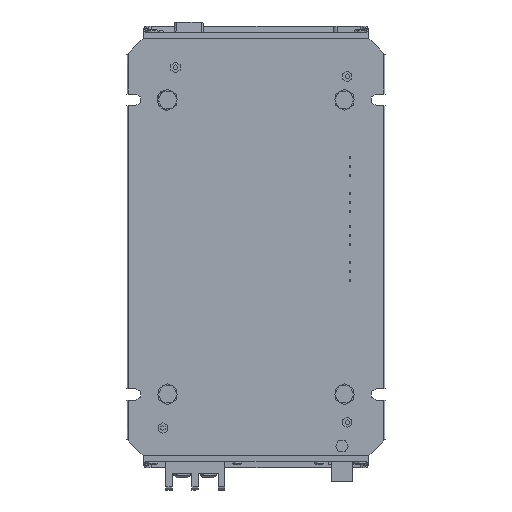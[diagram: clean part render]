
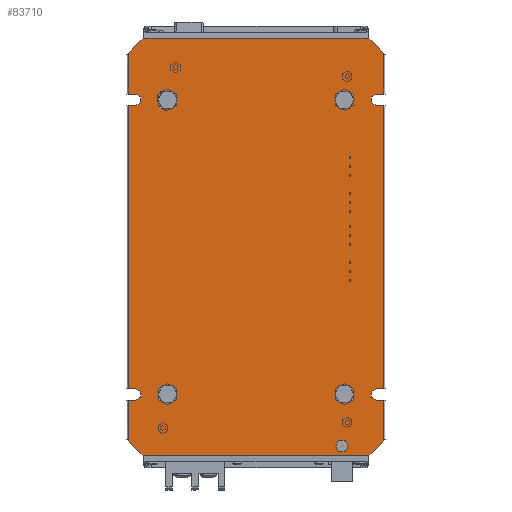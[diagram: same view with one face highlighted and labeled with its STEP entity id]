
A CAD part, front view. The second image highlights one B-rep face of the part: STEP entity #83710.
In plain terms, the highlighted planar face has unit normal (0, -1, 0).
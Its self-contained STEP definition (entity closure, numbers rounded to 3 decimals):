
#43850=CARTESIAN_POINT('',(1991.876,30.104,0.));
#43860=DIRECTION('',(0.,0.,-1.));
#43870=VECTOR('',#43860,1.);
#43880=LINE('',#43850,#43870);
#43890=CARTESIAN_POINT('',(1991.876,30.104,292.237));
#43900=VERTEX_POINT('',#43890);
#43910=CARTESIAN_POINT('',(1991.876,30.104,267.237));
#43920=VERTEX_POINT('',#43910);
#43930=EDGE_CURVE('',#43900,#43920,#43880,.T.);
#46560=CARTESIAN_POINT('',(2143.376,30.104,267.237));
#46570=VERTEX_POINT('',#46560);
#46600=CARTESIAN_POINT('',(0.,30.104,267.237));
#46610=DIRECTION('',(-1.,0.,0.));
#46620=VECTOR('',#46610,1.);
#46630=LINE('',#46600,#46620);
#46640=CARTESIAN_POINT('',(2147.876,30.104,267.237));
#46650=VERTEX_POINT('',#46640);
#46660=EDGE_CURVE('',#46650,#46570,#46630,.T.);
#51640=CARTESIAN_POINT('',(2123.876,30.104,270.237));
#51650=VERTEX_POINT('',#51640);
#51810=CARTESIAN_POINT('',(2123.876,30.104,257.237));
#51820=VERTEX_POINT('',#51810);
#51850=CARTESIAN_POINT('',(2123.876,30.104,263.737));
#51860=DIRECTION('',(0.,-1.,0.));
#51870=DIRECTION('',(0.,0.,-1.));
#51880=AXIS2_PLACEMENT_3D('',#51850,#51860,#51870);
#51890=CIRCLE('',#51880,6.5);
#51900=EDGE_CURVE('',#51650,#51820,#51890,.T.);
#56190=CARTESIAN_POINT('',(2000.876,30.104,46.237));
#56200=VERTEX_POINT('',#56190);
#56230=CARTESIAN_POINT('',(0.,30.104,46.237));
#56240=DIRECTION('',(1.,0.,0.));
#56250=VECTOR('',#56240,1.);
#56260=LINE('',#56230,#56250);
#56270=CARTESIAN_POINT('',(2138.876,30.104,46.237));
#56280=VERTEX_POINT('',#56270);
#56290=EDGE_CURVE('',#56200,#56280,#56260,.T.);
#58890=CARTESIAN_POINT('',(2000.876,30.104,301.237));
#58900=VERTEX_POINT('',#58890);
#58950=CARTESIAN_POINT('',(1699.639,30.104,0.));
#58960=DIRECTION('',(0.707,0.,0.707));
#58970=VECTOR('',#58960,1.);
#58980=LINE('',#58950,#58970);
#58990=EDGE_CURVE('',#43900,#58900,#58980,.T.);
#61160=CARTESIAN_POINT('',(2147.876,30.104,260.237));
#61170=VERTEX_POINT('',#61160);
#61200=CARTESIAN_POINT('',(0.,30.104,260.237));
#61210=DIRECTION('',(1.,0.,0.));
#61220=VECTOR('',#61210,1.);
#61230=LINE('',#61200,#61220);
#61240=CARTESIAN_POINT('',(2143.376,30.104,260.237));
#61250=VERTEX_POINT('',#61240);
#61260=EDGE_CURVE('',#61250,#61170,#61230,.T.);
#62160=CARTESIAN_POINT('',(0.,30.104,267.237));
#62170=DIRECTION('',(-1.,0.,0.));
#62180=VECTOR('',#62170,1.);
#62190=LINE('',#62160,#62180);
#62200=CARTESIAN_POINT('',(1996.376,30.104,267.237));
#62210=VERTEX_POINT('',#62200);
#62220=EDGE_CURVE('',#62210,#43920,#62190,.T.);
#66510=CARTESIAN_POINT('',(1991.876,30.104,55.237));
#66520=VERTEX_POINT('',#66510);
#66550=CARTESIAN_POINT('',(2123.776,30.104,-76.663));
#66560=DIRECTION('',(0.707,0.,-0.707));
#66570=VECTOR('',#66560,1.);
#66580=LINE('',#66550,#66570);
#66590=EDGE_CURVE('',#66520,#56200,#66580,.T.);
#66910=CARTESIAN_POINT('',(2123.876,30.104,77.237));
#66920=VERTEX_POINT('',#66910);
#67000=CARTESIAN_POINT('',(2123.876,30.104,90.237));
#67010=VERTEX_POINT('',#67000);
#67040=CARTESIAN_POINT('',(2123.876,30.104,83.737));
#67050=DIRECTION('',(0.,-1.,0.));
#67060=DIRECTION('',(0.,0.,-1.));
#67070=AXIS2_PLACEMENT_3D('',#67040,#67050,#67060);
#67080=CIRCLE('',#67070,6.5);
#67090=CARTESIAN_POINT('',(2129.385,30.104,87.187))
;
#67100=VERTEX_POINT('',#67090);
#67110=EDGE_CURVE('',#67100,#67010,#67080,.T.);
#67130=EDGE_CURVE('',#66920,#67100,#67080,.T.);
#67230=CARTESIAN_POINT('',(2147.876,30.104,0.));
#67240=DIRECTION('',(0.,0.,1.));
#67250=VECTOR('',#67240,1.);
#67260=LINE('',#67230,#67250);
#67270=CARTESIAN_POINT('',(2147.876,30.104,87.237));
#67280=VERTEX_POINT('',#67270);
#67290=EDGE_CURVE('',#67280,#61170,#67260,.T.);
#67600=CARTESIAN_POINT('',(2147.876,30.104,292.237));
#67610=VERTEX_POINT('',#67600);
#67660=CARTESIAN_POINT('',(2440.113,30.104,0.));
#67670=DIRECTION('',(0.707,0.,-0.707));
#67680=VECTOR('',#67670,1.);
#67690=LINE('',#67660,#67680);
#67700=CARTESIAN_POINT('',(2138.876,30.104,301.237));
#67710=VERTEX_POINT('',#67700);
#67720=EDGE_CURVE('',#67710,#67610,#67690,.T.);
#67960=CARTESIAN_POINT('',(2092.639,30.104,0.));
#67970=DIRECTION('',(0.707,0.,0.707));
#67980=VECTOR('',#67970,1.);
#67990=LINE('',#67960,#67980);
#68000=CARTESIAN_POINT('',(2147.876,30.104,55.237));
#68010=VERTEX_POINT('',#68000);
#68020=EDGE_CURVE('',#56280,#68010,#67990,.T.);
#69540=CARTESIAN_POINT('',(2147.876,30.104,80.237));
#69550=VERTEX_POINT('',#69540);
#69560=EDGE_CURVE('',#68010,#69550,#67260,.T.);
#69760=CARTESIAN_POINT('',(1996.376,30.104,263.737));
#69770=DIRECTION('',(0.,1.,0.));
#69780=DIRECTION('',(0.,0.,-1.));
#69790=AXIS2_PLACEMENT_3D('',#69760,#69770,#69780);
#69800=CIRCLE('',#69790,3.5);
#69810=CARTESIAN_POINT('',(1996.376,30.104,260.237));
#69820=VERTEX_POINT('',#69810);
#69830=EDGE_CURVE('',#62210,#69820,#69800,.T.);
#72730=CARTESIAN_POINT('',(0.,30.104,301.237));
#72740=DIRECTION('',(-1.,0.,0.));
#72750=VECTOR('',#72740,1.);
#72760=LINE('',#72730,#72750);
#72770=EDGE_CURVE('',#67710,#58900,#72760,.T.);
#75130=CARTESIAN_POINT('',(2015.876,30.104,270.237));
#75140=VERTEX_POINT('',#75130);
#75220=CARTESIAN_POINT('',(2015.876,30.104,257.237));
#75230=VERTEX_POINT('',#75220);
#75260=CARTESIAN_POINT('',(2015.876,30.104,263.737));
#75270=DIRECTION('',(0.,-1.,0.));
#75280=DIRECTION('',(0.,0.,-1.));
#75290=AXIS2_PLACEMENT_3D('',#75260,#75270,#75280);
#75300=CIRCLE('',#75290,6.5);
#75310=EDGE_CURVE('',#75140,#75230,#75300,.T.);
#75420=CARTESIAN_POINT('',(1991.876,30.104,260.237));
#75430=VERTEX_POINT('',#75420);
#75460=CARTESIAN_POINT('',(1991.876,30.104,87.237));
#75470=VERTEX_POINT('',#75460);
#75480=EDGE_CURVE('',#75430,#75470,#43880,.T.);
#77840=CARTESIAN_POINT('',(1996.376,30.104,87.237));
#77850=VERTEX_POINT('',#77840);
#77880=CARTESIAN_POINT('',(1996.376,30.104,83.737));
#77890=DIRECTION('',(0.,1.,0.));
#77900=DIRECTION('',(0.,0.,-1.));
#77910=AXIS2_PLACEMENT_3D('',#77880,#77890,#77900);
#77920=CIRCLE('',#77910,3.5);
#77930=CARTESIAN_POINT('',(1996.376,30.104,80.237));
#77940=VERTEX_POINT('',#77930);
#77950=EDGE_CURVE('',#77850,#77940,#77920,.T.);
#78460=EDGE_CURVE('',#46650,#67610,#67260,.T.);
#80830=CARTESIAN_POINT('',(1991.876,30.104,80.237));
#80840=VERTEX_POINT('',#80830);
#80890=CARTESIAN_POINT('',(0.,30.104,80.237));
#80900=DIRECTION('',(1.,0.,0.));
#80910=VECTOR('',#80900,1.);
#80920=LINE('',#80890,#80910);
#80930=EDGE_CURVE('',#80840,#77940,#80920,.T.);
#82720=CARTESIAN_POINT('',(2120.876,30.104,384.774));
#82730=DIRECTION('',(0.,1.,-0.));
#82740=DIRECTION('',(-1.,0.,0.));
#82750=AXIS2_PLACEMENT_3D('',#82720,#82730,#82740);
#82760=PLANE('',#82750);
#82770=CARTESIAN_POINT('',(2015.876,30.104,83.737));
#82780=DIRECTION('',(0.,-1.,0.));
#82790=DIRECTION('',(0.,0.,-1.));
#82800=AXIS2_PLACEMENT_3D('',#82770,#82780,#82790);
#82810=CIRCLE('',#82800,6.5);
#82820=CARTESIAN_POINT('',(2015.876,30.104,77.237));
#82830=VERTEX_POINT('',#82820);
#82840=CARTESIAN_POINT('',(2015.876,30.104,90.237));
#82850=VERTEX_POINT('',#82840);
#82860=EDGE_CURVE('',#82830,#82850,#82810,.T.);
#82870=ORIENTED_EDGE('',*,*,#82860,.F.);
#82880=EDGE_CURVE('',#82850,#82830,#82810,.T.);
#82890=ORIENTED_EDGE('',*,*,#82880,.F.);
#82900=EDGE_LOOP('',(#82890,#82870));
#82910=FACE_BOUND('',#82900,.T.);
#82920=EDGE_CURVE('',#75230,#75140,#75300,.T.);
#82930=ORIENTED_EDGE('',*,*,#82920,.F.);
#82940=ORIENTED_EDGE('',*,*,#75310,.F.);
#82950=EDGE_LOOP('',(#82940,#82930));
#82960=FACE_BOUND('',#82950,.T.);
#82970=ORIENTED_EDGE('',*,*,#67110,.F.);
#82980=EDGE_CURVE('',#67010,#66920,#67080,.T.);
#82990=ORIENTED_EDGE('',*,*,#82980,.F.);
#83000=ORIENTED_EDGE('',*,*,#67130,.F.);
#83010=EDGE_LOOP('',(#83000,#82990,#82970));
#83020=FACE_BOUND('',#83010,.T.);
#83030=EDGE_CURVE('',#51820,#51650,#51890,.T.);
#83040=ORIENTED_EDGE('',*,*,#83030,.F.);
#83050=ORIENTED_EDGE('',*,*,#51900,.F.);
#83060=EDGE_LOOP('',(#83050,#83040));
#83070=FACE_BOUND('',#83060,.T.);
#83080=ORIENTED_EDGE('',*,*,#58990,.F.);
#83090=ORIENTED_EDGE('',*,*,#72770,.T.);
#83100=ORIENTED_EDGE('',*,*,#67720,.F.);
#83110=ORIENTED_EDGE('',*,*,#78460,.T.);
#83120=ORIENTED_EDGE('',*,*,#46660,.F.);
#83130=CARTESIAN_POINT('',(2143.376,30.104,263.737));
#83140=DIRECTION('',(0.,1.,0.));
#83150=DIRECTION('',(0.,0.,-1.));
#83160=AXIS2_PLACEMENT_3D('',#83130,#83140,#83150);
#83170=CIRCLE('',#83160,3.5);
#83180=EDGE_CURVE('',#61250,#46570,#83170,.T.);
#83190=ORIENTED_EDGE('',*,*,#83180,.T.);
#83200=ORIENTED_EDGE('',*,*,#61260,.F.);
#83210=ORIENTED_EDGE('',*,*,#67290,.T.);
#83220=CARTESIAN_POINT('',(0.,30.104,87.237));
#83230=DIRECTION('',(-1.,0.,0.));
#83240=VECTOR('',#83230,1.);
#83250=LINE('',#83220,#83240);
#83260=CARTESIAN_POINT('',(2143.376,30.104,87.237));
#83270=VERTEX_POINT('',#83260);
#83280=EDGE_CURVE('',#67280,#83270,#83250,.T.);
#83290=ORIENTED_EDGE('',*,*,#83280,.F.);
#83300=CARTESIAN_POINT('',(2143.376,30.104,83.737));
#83310=DIRECTION('',(0.,1.,0.));
#83320=DIRECTION('',(0.,0.,-1.));
#83330=AXIS2_PLACEMENT_3D('',#83300,#83310,#83320);
#83340=CIRCLE('',#83330,3.5);
#83350=CARTESIAN_POINT('',(2143.376,30.104,80.237));
#83360=VERTEX_POINT('',#83350);
#83370=EDGE_CURVE('',#83360,#83270,#83340,.T.);
#83380=ORIENTED_EDGE('',*,*,#83370,.T.);
#83390=CARTESIAN_POINT('',(0.,30.104,80.237));
#83400=DIRECTION('',(1.,0.,0.));
#83410=VECTOR('',#83400,1.);
#83420=LINE('',#83390,#83410);
#83430=EDGE_CURVE('',#83360,#69550,#83420,.T.);
#83440=ORIENTED_EDGE('',*,*,#83430,.F.);
#83450=ORIENTED_EDGE('',*,*,#69560,.T.);
#83460=ORIENTED_EDGE('',*,*,#68020,.T.);
#83470=ORIENTED_EDGE('',*,*,#56290,.T.);
#83480=ORIENTED_EDGE('',*,*,#66590,.T.);
#83490=EDGE_CURVE('',#80840,#66520,#43880,.T.);
#83500=ORIENTED_EDGE('',*,*,#83490,.T.);
#83510=ORIENTED_EDGE('',*,*,#80930,.F.);
#83520=ORIENTED_EDGE('',*,*,#77950,.T.);
#83530=CARTESIAN_POINT('',(0.,30.104,87.237));
#83540=DIRECTION('',(-1.,0.,0.));
#83550=VECTOR('',#83540,1.);
#83560=LINE('',#83530,#83550);
#83570=EDGE_CURVE('',#77850,#75470,#83560,.T.);
#83580=ORIENTED_EDGE('',*,*,#83570,.F.);
#83590=ORIENTED_EDGE('',*,*,#75480,.T.);
#83600=CARTESIAN_POINT('',(0.,30.104,260.237));
#83610=DIRECTION('',(1.,0.,0.));
#83620=VECTOR('',#83610,1.);
#83630=LINE('',#83600,#83620);
#83640=EDGE_CURVE('',#75430,#69820,#83630,.T.);
#83650=ORIENTED_EDGE('',*,*,#83640,.F.);
#83660=ORIENTED_EDGE('',*,*,#69830,.T.);
#83670=ORIENTED_EDGE('',*,*,#62220,.F.);
#83680=ORIENTED_EDGE('',*,*,#43930,.T.);
#83690=EDGE_LOOP('',(#83680,#83670,#83660,#83650,#83590,#83580,#83520,
#83510,#83500,#83480,#83470,#83460,#83450,#83440,#83380,#83290,#83210,
#83200,#83190,#83120,#83110,#83100,#83090,#83080));
#83700=FACE_OUTER_BOUND('',#83690,.T.);
#83710=ADVANCED_FACE('',(#82910,#82960,#83020,#83070,#83700),#82760,.F.)
;
